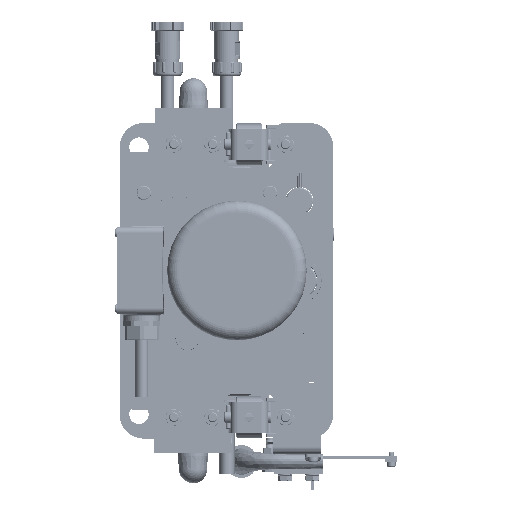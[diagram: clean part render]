
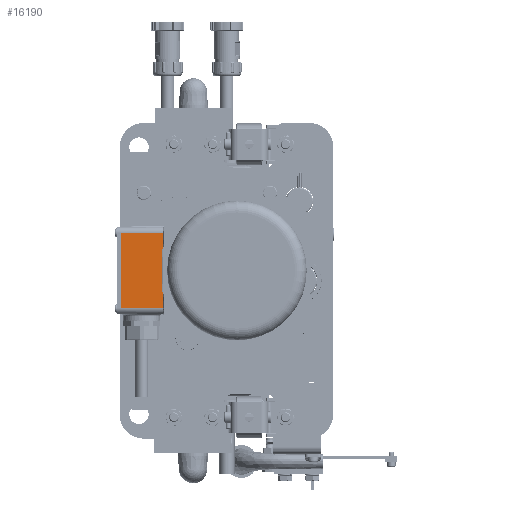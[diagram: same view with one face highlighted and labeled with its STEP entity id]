
A CAD part, left-side view. The second image highlights one B-rep face of the part: STEP entity #16190.
In plain terms, the highlighted planar face has unit normal (-1, 0, 0) as drawn and (0, 0, 1) by its records, which use the part's own axes.
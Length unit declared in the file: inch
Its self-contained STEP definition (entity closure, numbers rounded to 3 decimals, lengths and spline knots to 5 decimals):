
#1985 = LINE ( 'NONE', #105953, #87715 ) ;
#6208 = CARTESIAN_POINT ( 'NONE',  ( 1.53543, 4.68504, 4.17323 ) ) ;
#8985 = VECTOR ( 'NONE', #116055, 39.37008 ) ;
#15910 = VERTEX_POINT ( 'NONE', #6208 ) ;
#16190 = ADVANCED_FACE ( 'NONE', ( #17948 ), #33876, .F. ) ;
#17948 = FACE_OUTER_BOUND ( 'NONE', #163353, .T. ) ;
#33540 = LINE ( 'NONE', #77548, #160300 ) ;
#33876 = PLANE ( 'NONE',  #163800 ) ;
#43932 = VERTEX_POINT ( 'NONE', #125925 ) ;
#45798 = CARTESIAN_POINT ( 'NONE',  ( -1.53543, 4.68504, 4.17323 ) ) ;
#47925 = DIRECTION ( 'NONE',  ( 0., 0., -1. ) ) ;
#53641 = CARTESIAN_POINT ( 'NONE',  ( 1.53543, 4.68504, 4.17323 ) ) ;
#58634 = EDGE_CURVE ( 'NONE', #170283, #43932, #180176, .T. ) ;
#65817 = CARTESIAN_POINT ( 'NONE',  ( -0.00069, 3.03149, 4.17323 ) ) ;
#70770 = ORIENTED_EDGE ( 'NONE', *, *, #170245, .T. ) ;
#75697 = VECTOR ( 'NONE', #178391, 39.37008 ) ;
#75799 = VERTEX_POINT ( 'NONE', #99596 ) ;
#77279 = ORIENTED_EDGE ( 'NONE', *, *, #164496, .T. ) ;
#77548 = CARTESIAN_POINT ( 'NONE',  ( 1.77165, 4.68504, 4.17323 ) ) ;
#80751 = DIRECTION ( 'NONE',  ( 1., 0.017, 0. ) ) ;
#81932 = ORIENTED_EDGE ( 'NONE', *, *, #122451, .F. ) ;
#87008 = CARTESIAN_POINT ( 'NONE',  ( -1.53543, 4.68504, 4.17323 ) ) ;
#87715 = VECTOR ( 'NONE', #176314, 39.37008 ) ;
#92893 = CARTESIAN_POINT ( 'NONE',  ( 1.77165, 4.68504, 4.17323 ) ) ;
#99596 = CARTESIAN_POINT ( 'NONE',  ( 1.53543, 3.0047, 4.17323 ) ) ;
#100152 = LINE ( 'NONE', #87008, #8985 ) ;
#105953 = CARTESIAN_POINT ( 'NONE',  ( 1.74226, 3.00109, 4.17323 ) ) ;
#116055 = DIRECTION ( 'NONE',  ( 0., -1., 0. ) ) ;
#122451 = EDGE_CURVE ( 'NONE', #149051, #15910, #33540, .T. ) ;
#125925 = CARTESIAN_POINT ( 'NONE',  ( 0., 3.0315, 4.17323 ) ) ;
#134708 = DIRECTION ( 'NONE',  ( 1., 0., 0. ) ) ;
#136897 = DIRECTION ( 'NONE',  ( -1., 0., 0. ) ) ;
#148312 = ORIENTED_EDGE ( 'NONE', *, *, #58634, .T. ) ;
#149051 = VERTEX_POINT ( 'NONE', #45798 ) ;
#160300 = VECTOR ( 'NONE', #134708, 39.37008 ) ;
#163353 = EDGE_LOOP ( 'NONE', ( #148312, #181211, #70770, #81932, #77279 ) ) ;
#163800 = AXIS2_PLACEMENT_3D ( 'NONE', #92893, #47925, #136897 ) ;
#164496 = EDGE_CURVE ( 'NONE', #149051, #170283, #100152, .T. ) ;
#165253 = LINE ( 'NONE', #53641, #75697 ) ;
#170245 = EDGE_CURVE ( 'NONE', #75799, #15910, #165253, .T. ) ;
#170283 = VERTEX_POINT ( 'NONE', #172606 ) ;
#170348 = EDGE_CURVE ( 'NONE', #43932, #75799, #1985, .T. ) ;
#172606 = CARTESIAN_POINT ( 'NONE',  ( -1.53543, 3.0047, 4.17323 ) ) ;
#176314 = DIRECTION ( 'NONE',  ( 1., -0.017, 0. ) ) ;
#177420 = VECTOR ( 'NONE', #80751, 39.37008 ) ;
#178391 = DIRECTION ( 'NONE',  ( 0., 1., 0. ) ) ;
#180176 = LINE ( 'NONE', #65817, #177420 ) ;
#181211 = ORIENTED_EDGE ( 'NONE', *, *, #170348, .T. ) ;
